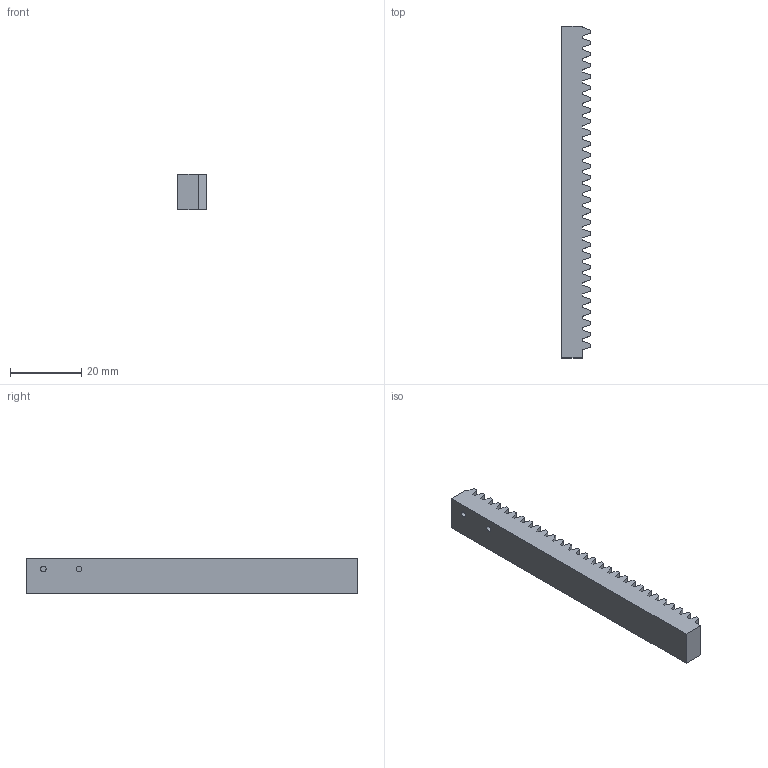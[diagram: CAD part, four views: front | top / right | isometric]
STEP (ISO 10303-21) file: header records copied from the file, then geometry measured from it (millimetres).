
FILE_DESCRIPTION(('Open CASCADE Model'),'2;1');
FILE_NAME('Open CASCADE Shape Model','2026-10-17T22:08:14',('Author'),( 'Open CASCADE'),'Open CASCADE STEP processor 7.9','Open CASCADE 7.9' ,'Unknown');
FILE_SCHEMA(('AUTOMOTIVE_DESIGN { 1 0 10303 214 1 1 1 1 }'));
Length unit declared in the file: millimetre
Products named in the file (1): Open CASCADE STEP translator 7.9 14
Bounding box: 8 x 93 x 10 mm (x, y, z)
Volume: 6411.7 mm3; surface area: 4225.4 mm2
Topology: 1 solids, 1 shells, 126 faces, 366 edges, 244 vertices
Faces by surface type: plane 124, cylinder 2
Full cylindrical faces by diameter (mm): 1.6 x2
Entity records: 8848 total; most frequent: CARTESIAN_POINT 1481, DIRECTION 1354, LINE 1090, VECTOR 1090, ORIENTED_EDGE 732, PCURVE 732, DEFINITIONAL_REPRESENTATION 732, EDGE_CURVE 366
